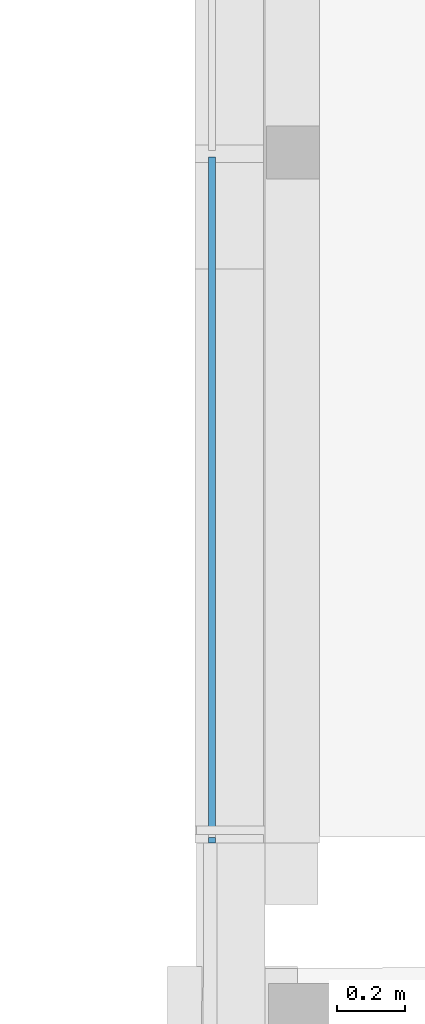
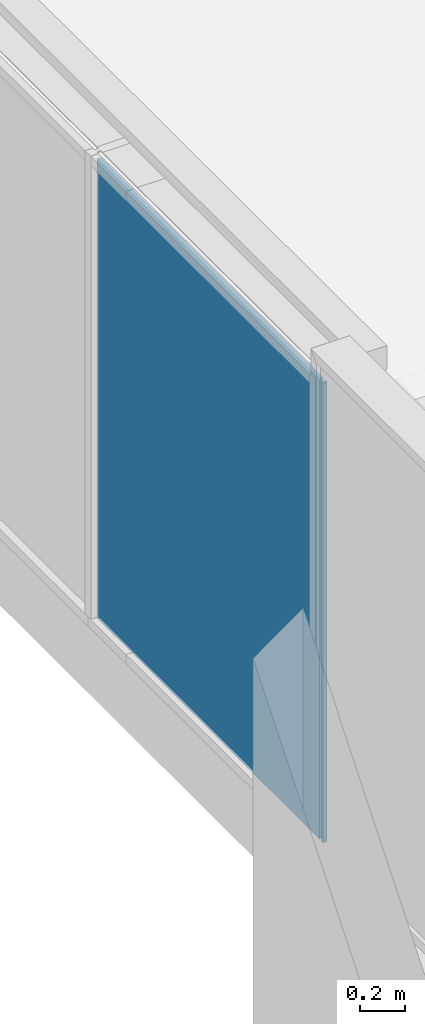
# One storey, part 76 of 301: 2 plates, 1 element without a shape of its own.
"""IFC2X3 building model written with IfcOpenShell, lengths in millimetres."""

from ifc_helpers import new_model, entity, si_unit, converted_unit, derived_unit, money_unit, direction, frame, origin_with_axes, place, context, subcontext, project, spatial, faceted_brep, material, type_object, element, aggregate, save


model = new_model("IFC2X3")

# Units and contexts
model_context = context("Model", 3, precision=0.01, world=origin_with_axes(), true_north=direction((0.0, 1.0)))
body_context = subcontext(model_context, "Body", "Model", "MODEL_VIEW")
ifc_project = project(units=[si_unit("LENGTHUNIT", "METRE", prefix="MILLI"), si_unit("AREAUNIT", "SQUARE_METRE"), si_unit("VOLUMEUNIT", "CUBIC_METRE"), converted_unit("PLANEANGLEUNIT", "DEGREE", entity("IfcPlaneAngleMeasure", 0.0174532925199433), si_unit("PLANEANGLEUNIT", "RADIAN"), dimensions=[0, 0, 0, 0, 0, 0, 0]), money_unit("EUR"), converted_unit("TIMEUNIT", "Year", entity("IfcTimeMeasure", 31557600.0), si_unit("TIMEUNIT", "SECOND"), dimensions=[0, 0, 1, 0, 0, 0, 0]), si_unit("MASSUNIT", "GRAM", prefix="KILO"), si_unit("THERMODYNAMICTEMPERATUREUNIT", "DEGREE_CELSIUS"), si_unit("LUMINOUSINTENSITYUNIT", "LUMEN"), si_unit("ENERGYUNIT", "JOULE", prefix="MEGA"), derived_unit("THERMALCONDUCTANCEUNIT", [(si_unit("POWERUNIT", "WATT"), 1), (si_unit("LENGTHUNIT", "METRE"), -1), (si_unit("THERMODYNAMICTEMPERATUREUNIT", "KELVIN"), -1)]), derived_unit("SPECIFICHEATCAPACITYUNIT", [(si_unit("ENERGYUNIT", "JOULE"), 1), (si_unit("MASSUNIT", "GRAM", prefix="KILO"), -1), (si_unit("THERMODYNAMICTEMPERATUREUNIT", "KELVIN"), -1)]), derived_unit("MASSDENSITYUNIT", [(si_unit("MASSUNIT", "GRAM", prefix="KILO"), 1), (si_unit("VOLUMEUNIT", "CUBIC_METRE"), -1)])], contexts=[model_context])

# Site, building, storey
site_placement = place(None, frame((0.0, 0.0, 8650.0), z_axis=(0.0, 0.0, 1.0), x_axis=(1.0, 0.0, 0.0)))
site = spatial("IfcSite", under=ifc_project, at=site_placement, Name="43301:001:0844", CompositionType="ELEMENT")
building_placement = place(site_placement, origin_with_axes())
building = spatial("IfcBuilding", under=site, at=building_placement, Name="Kuressaare Ametikooli tuulikute mehaanikute õppekorpus", CompositionType="ELEMENT")
storey_placement = place(building_placement, origin_with_axes())
storey = spatial("IfcBuildingStorey", under=building, at=storey_placement, Name="1.korrus", CompositionType="ELEMENT", Elevation=0.0)

# Curtain wall, plates
curtain_wall_type = type_object("IfcCurtainWallType", Name="Curtain Wall Type", PredefinedType="NOTDEFINED")
curtain_wall_placement = place(storey_placement, frame((118344.5490393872, 39517.28066569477, -20.0), z_axis=(0.0, 0.0, 1.0), x_axis=(1.0, 0.0, 0.0)))
curtain_wall = element("IfcCurtainWall", 1, at=curtain_wall_placement, inside=storey, type_object=curtain_wall_type, Name="KF-XX")
ifc_material = material(Name="Klaas")
plate_type_1 = type_object("IfcPlateType", Name="Main Panel 327 x 2485 x 20", PredefinedType="NOTDEFINED")
plate_1_placement = place(curtain_wall_placement, frame((0.0, -5988.45452002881, 1265.0000199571), z_axis=(0.0, 0.0, 1.0), x_axis=(0.0, 1.0, 0.0)))
plate_1 = element("IfcPlate", 2, at=plate_1_placement, type_object=plate_type_1, material=ifc_material, context=body_context, shape_type="Brep", body=[
    faceted_brep([(-1204.212258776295, -10.00000000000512, 1255.000026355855), (438.4348511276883, -10.00000000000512, 1255.000026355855), (438.4348511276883, 10.00000000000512, 1255.000026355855), (-1204.212258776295, 10.00000000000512, 1255.000026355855), (-1204.212258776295, -10.00000000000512, -1230.000004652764), (438.4348511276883, -10.00000000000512, -1230.000004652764), (765.7773949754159, -10.00000000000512, -1230.000004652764), (765.7773949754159, -10.00000000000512, 1255.000026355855), (765.7773949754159, 10.00000000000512, 1255.000026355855), (765.7773949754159, 10.00000000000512, -1230.000004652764), (438.4348511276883, 10.00000000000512, -1230.000004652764), (-1204.212258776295, 10.00000000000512, -1230.000004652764)], [[[0, 1, 2, 3]], [[0, 4, 5, 6, 7, 1]], [[1, 7, 8, 2]], [[3, 2, 8, 9, 10, 11]], [[4, 0, 3, 11]], [[5, 4, 11, 10]], [[6, 5, 10, 9]], [[7, 6, 9, 8]]]),
])
plate_type_2 = type_object("IfcPlateType", Name="Main Panel 15 x 2485 x 20", PredefinedType="NOTDEFINED")
plate_2_placement = place(curtain_wall_placement, frame((0.0, -7215.14440861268, 1265.0000199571), z_axis=(0.0, 0.0, 1.0), x_axis=(0.0, 1.0, 0.0)))
plate_2 = element("IfcPlate", 3, at=plate_2_placement, type_object=plate_type_2, material=ifc_material, context=body_context, shape_type="Brep", body=[
    faceted_brep([(-12.47762906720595, -10.00000000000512, 1255.000026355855), (2.477649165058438, -10.00000000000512, 1255.000026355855), (2.477649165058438, 10.00000000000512, 1255.000026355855), (-12.47762906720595, 10.00000000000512, 1255.000026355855), (-12.47762906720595, -10.00000000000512, -1230.000004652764), (2.477649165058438, -10.00000000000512, -1230.000004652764), (2.477649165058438, 10.00000000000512, -1230.000004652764), (-12.47762906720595, 10.00000000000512, -1230.000004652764)], [[[0, 1, 2, 3]], [[0, 4, 5, 1]], [[1, 5, 6, 2]], [[3, 2, 6, 7]], [[4, 0, 3, 7]], [[5, 4, 7, 6]]]),
])
aggregate(curtain_wall, [plate_1, plate_2])

save(model, "model.ifc")
